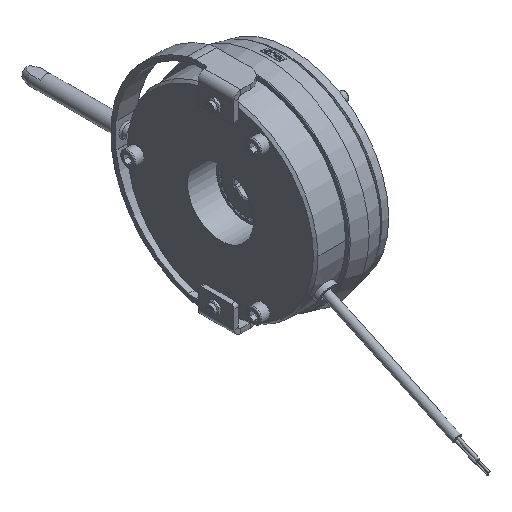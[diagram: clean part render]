
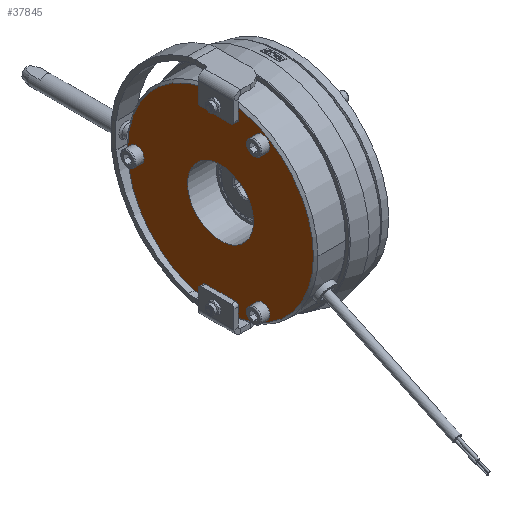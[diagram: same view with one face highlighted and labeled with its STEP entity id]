
A CAD part, isometric view. The second image highlights one B-rep face of the part: STEP entity #37845.
In plain terms, the highlighted planar face has unit normal (-1, 0, 0).
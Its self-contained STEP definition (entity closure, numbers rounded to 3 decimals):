
#2894=FACE_BOUND('',#5998,.T.);
#2895=FACE_BOUND('',#5999,.T.);
#2896=FACE_BOUND('',#6000,.T.);
#2897=FACE_BOUND('',#6001,.T.);
#3063=PLANE('',#40193);
#3940=FACE_OUTER_BOUND('',#5997,.T.);
#5997=EDGE_LOOP('',(#25103,#25104,#25105,#25106,#25107,#25108,#25109,#25110,
#25111,#25112,#25113,#25114,#25115));
#5998=EDGE_LOOP('',(#25116,#25117));
#5999=EDGE_LOOP('',(#25118,#25119));
#6000=EDGE_LOOP('',(#25120,#25121));
#6001=EDGE_LOOP('',(#25122));
#7950=LINE('',#56263,#9818);
#7953=LINE('',#56270,#9821);
#7957=LINE('',#56280,#9825);
#7960=LINE('',#56287,#9828);
#7982=LINE('',#56367,#9850);
#7992=LINE('',#56391,#9860);
#9818=VECTOR('',#44730,10.);
#9821=VECTOR('',#44739,10.);
#9825=VECTOR('',#44749,10.);
#9828=VECTOR('',#44758,10.);
#9850=VECTOR('',#44842,10.);
#9860=VECTOR('',#44868,10.);
#11662=CIRCLE('',#39867,5.);
#11663=CIRCLE('',#39868,5.);
#11676=CIRCLE('',#39895,5.);
#11677=CIRCLE('',#39896,5.);
#11690=CIRCLE('',#39923,5.);
#11691=CIRCLE('',#39924,5.);
#11750=CIRCLE('',#40018,2.);
#11751=CIRCLE('',#40021,2.);
#11752=CIRCLE('',#40024,2.);
#11753=CIRCLE('',#40027,2.);
#11828=CIRCLE('',#40194,62.);
#11829=CIRCLE('',#40195,62.);
#11830=CIRCLE('',#40196,62.);
#11831=CIRCLE('',#40197,22.);
#14137=VERTEX_POINT('',#55781);
#14138=VERTEX_POINT('',#55782);
#14164=VERTEX_POINT('',#55873);
#14165=VERTEX_POINT('',#55874);
#14191=VERTEX_POINT('',#55965);
#14192=VERTEX_POINT('',#55966);
#14258=VERTEX_POINT('',#56214);
#14259=VERTEX_POINT('',#56215);
#14265=VERTEX_POINT('',#56230);
#14266=VERTEX_POINT('',#56231);
#14277=VERTEX_POINT('',#56256);
#14278=VERTEX_POINT('',#56258);
#14279=VERTEX_POINT('',#56262);
#14280=VERTEX_POINT('',#56266);
#14281=VERTEX_POINT('',#56273);
#14282=VERTEX_POINT('',#56275);
#14283=VERTEX_POINT('',#56279);
#14284=VERTEX_POINT('',#56283);
#14394=VERTEX_POINT('',#56733);
#14395=VERTEX_POINT('',#56737);
#18072=EDGE_CURVE('',#14137,#14138,#11662,.T.);
#18073=EDGE_CURVE('',#14138,#14137,#11663,.T.);
#18109=EDGE_CURVE('',#14164,#14165,#11676,.T.);
#18110=EDGE_CURVE('',#14165,#14164,#11677,.T.);
#18146=EDGE_CURVE('',#14191,#14192,#11690,.T.);
#18147=EDGE_CURVE('',#14192,#14191,#11691,.T.);
#18254=EDGE_CURVE('',#14278,#14277,#11750,.T.);
#18256=EDGE_CURVE('',#14279,#14278,#7950,.T.);
#18258=EDGE_CURVE('',#14280,#14279,#11751,.T.);
#18260=EDGE_CURVE('',#14259,#14280,#7953,.T.);
#18263=EDGE_CURVE('',#14282,#14281,#11752,.T.);
#18265=EDGE_CURVE('',#14283,#14282,#7957,.T.);
#18267=EDGE_CURVE('',#14284,#14283,#11753,.T.);
#18269=EDGE_CURVE('',#14266,#14284,#7960,.T.);
#18309=EDGE_CURVE('',#14277,#14258,#7982,.T.);
#18322=EDGE_CURVE('',#14281,#14265,#7992,.T.);
#18467=EDGE_CURVE('',#14394,#14258,#11828,.T.);
#18468=EDGE_CURVE('',#14266,#14394,#11829,.T.);
#18469=EDGE_CURVE('',#14259,#14265,#11830,.T.);
#18470=EDGE_CURVE('',#14395,#14395,#11831,.T.);
#25103=ORIENTED_EDGE('',*,*,#18260,.T.);
#25104=ORIENTED_EDGE('',*,*,#18258,.T.);
#25105=ORIENTED_EDGE('',*,*,#18256,.T.);
#25106=ORIENTED_EDGE('',*,*,#18254,.T.);
#25107=ORIENTED_EDGE('',*,*,#18309,.T.);
#25108=ORIENTED_EDGE('',*,*,#18467,.F.);
#25109=ORIENTED_EDGE('',*,*,#18468,.F.);
#25110=ORIENTED_EDGE('',*,*,#18269,.T.);
#25111=ORIENTED_EDGE('',*,*,#18267,.T.);
#25112=ORIENTED_EDGE('',*,*,#18265,.T.);
#25113=ORIENTED_EDGE('',*,*,#18263,.T.);
#25114=ORIENTED_EDGE('',*,*,#18322,.T.);
#25115=ORIENTED_EDGE('',*,*,#18469,.F.);
#25116=ORIENTED_EDGE('',*,*,#18072,.T.);
#25117=ORIENTED_EDGE('',*,*,#18073,.T.);
#25118=ORIENTED_EDGE('',*,*,#18109,.T.);
#25119=ORIENTED_EDGE('',*,*,#18110,.T.);
#25120=ORIENTED_EDGE('',*,*,#18146,.T.);
#25121=ORIENTED_EDGE('',*,*,#18147,.T.);
#25122=ORIENTED_EDGE('',*,*,#18470,.T.);
#37845=ADVANCED_FACE('',(#3940,#2894,#2895,#2896,#2897),#3063,.T.);
#39867=AXIS2_PLACEMENT_3D('',#55783,#44354,#44355);
#39868=AXIS2_PLACEMENT_3D('',#55784,#44356,#44357);
#39895=AXIS2_PLACEMENT_3D('',#55875,#44426,#44427);
#39896=AXIS2_PLACEMENT_3D('',#55876,#44428,#44429);
#39923=AXIS2_PLACEMENT_3D('',#55967,#44498,#44499);
#39924=AXIS2_PLACEMENT_3D('',#55968,#44500,#44501);
#40018=AXIS2_PLACEMENT_3D('',#56259,#44725,#44726);
#40021=AXIS2_PLACEMENT_3D('',#56267,#44734,#44735);
#40024=AXIS2_PLACEMENT_3D('',#56276,#44744,#44745);
#40027=AXIS2_PLACEMENT_3D('',#56284,#44753,#44754);
#40193=AXIS2_PLACEMENT_3D('',#56732,#45186,#45187);
#40194=AXIS2_PLACEMENT_3D('',#56734,#45188,#45189);
#40195=AXIS2_PLACEMENT_3D('',#56735,#45190,#45191);
#40196=AXIS2_PLACEMENT_3D('',#56736,#45192,#45193);
#40197=AXIS2_PLACEMENT_3D('',#56738,#45194,#45195);
#44354=DIRECTION('center_axis',(1.,0.,0.));
#44355=DIRECTION('ref_axis',(0.,1.,0.));
#44356=DIRECTION('center_axis',(1.,0.,0.));
#44357=DIRECTION('ref_axis',(0.,1.,0.));
#44426=DIRECTION('center_axis',(1.,0.,0.));
#44427=DIRECTION('ref_axis',(0.,1.,0.));
#44428=DIRECTION('center_axis',(1.,0.,0.));
#44429=DIRECTION('ref_axis',(0.,1.,0.));
#44498=DIRECTION('center_axis',(1.,0.,0.));
#44499=DIRECTION('ref_axis',(0.,1.,0.));
#44500=DIRECTION('center_axis',(1.,0.,0.));
#44501=DIRECTION('ref_axis',(0.,1.,0.));
#44725=DIRECTION('center_axis',(1.,0.,0.));
#44726=DIRECTION('ref_axis',(0.,0.707,-0.707));
#44730=DIRECTION('',(0.,1.,0.));
#44734=DIRECTION('center_axis',(1.,0.,0.));
#44735=DIRECTION('ref_axis',(0.,-0.707,-0.707));
#44739=DIRECTION('',(0.,0.,-1.));
#44744=DIRECTION('center_axis',(1.,0.,0.));
#44745=DIRECTION('ref_axis',(0.,-0.707,0.707));
#44749=DIRECTION('',(0.,-1.,0.));
#44753=DIRECTION('center_axis',(1.,0.,0.));
#44754=DIRECTION('ref_axis',(0.,0.707,0.707));
#44758=DIRECTION('',(0.,0.,1.));
#44842=DIRECTION('',(0.,0.,1.));
#44868=DIRECTION('',(0.,0.,-1.));
#45186=DIRECTION('center_axis',(-1.,0.,0.));
#45187=DIRECTION('ref_axis',(0.,0.,1.));
#45188=DIRECTION('center_axis',(1.,0.,0.));
#45189=DIRECTION('ref_axis',(0.,-1.,0.));
#45190=DIRECTION('center_axis',(1.,0.,0.));
#45191=DIRECTION('ref_axis',(0.,-1.,0.));
#45192=DIRECTION('center_axis',(1.,0.,0.));
#45193=DIRECTION('ref_axis',(0.,-1.,0.));
#45194=DIRECTION('center_axis',(1.,0.,0.));
#45195=DIRECTION('ref_axis',(0.,0.,1.));
#55781=CARTESIAN_POINT('',(-23.,-23.,-48.497));
#55782=CARTESIAN_POINT('',(-23.,-33.,-48.497));
#55783=CARTESIAN_POINT('Origin',(-23.,-28.,-48.497));
#55784=CARTESIAN_POINT('Origin',(-23.,-28.,-48.497));
#55873=CARTESIAN_POINT('',(-23.,-23.,48.497));
#55874=CARTESIAN_POINT('',(-23.,-33.,48.497));
#55875=CARTESIAN_POINT('Origin',(-23.,-28.,48.497));
#55876=CARTESIAN_POINT('Origin',(-23.,-28.,48.497));
#55965=CARTESIAN_POINT('',(-23.,61.,0.));
#55966=CARTESIAN_POINT('',(-23.,51.,0.));
#55967=CARTESIAN_POINT('Origin',(-23.,56.,0.));
#55968=CARTESIAN_POINT('Origin',(-23.,56.,0.));
#56214=CARTESIAN_POINT('',(-23.,12.,60.828));
#56215=CARTESIAN_POINT('',(-23.,-12.,60.828));
#56230=CARTESIAN_POINT('',(-23.,-12.,-60.828));
#56231=CARTESIAN_POINT('',(-23.,12.,-60.828));
#56256=CARTESIAN_POINT('',(-23.,12.,54.));
#56258=CARTESIAN_POINT('',(-23.,10.,52.));
#56259=CARTESIAN_POINT('Origin',(-23.,10.,54.));
#56262=CARTESIAN_POINT('',(-23.,-10.,52.));
#56263=CARTESIAN_POINT('',(-23.,21.875,52.));
#56266=CARTESIAN_POINT('',(-23.,-12.,54.));
#56267=CARTESIAN_POINT('Origin',(-23.,-10.,54.));
#56270=CARTESIAN_POINT('',(-23.,-12.,33.));
#56273=CARTESIAN_POINT('',(-23.,-12.,-54.));
#56275=CARTESIAN_POINT('',(-23.,-10.,-52.));
#56276=CARTESIAN_POINT('Origin',(-23.,-10.,-54.));
#56279=CARTESIAN_POINT('',(-23.,10.,-52.));
#56280=CARTESIAN_POINT('',(-23.,21.875,-52.));
#56283=CARTESIAN_POINT('',(-23.,12.,-54.));
#56284=CARTESIAN_POINT('Origin',(-23.,10.,-54.));
#56287=CARTESIAN_POINT('',(-23.,12.,-33.));
#56367=CARTESIAN_POINT('',(-23.,12.,33.));
#56391=CARTESIAN_POINT('',(-23.,-12.,-33.));
#56732=CARTESIAN_POINT('Origin',(-23.,31.75,0.));
#56733=CARTESIAN_POINT('',(-23.,62.,0.));
#56734=CARTESIAN_POINT('Origin',(-23.,0.,0.));
#56735=CARTESIAN_POINT('Origin',(-23.,0.,0.));
#56736=CARTESIAN_POINT('Origin',(-23.,0.,0.));
#56737=CARTESIAN_POINT('',(-23.,0.,-22.));
#56738=CARTESIAN_POINT('Origin',(-23.,0.,0.));
